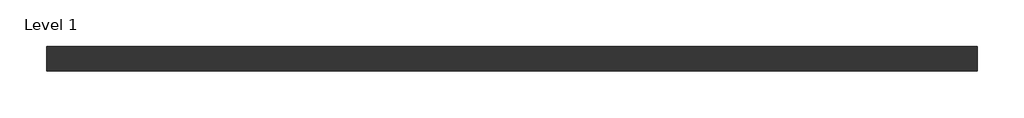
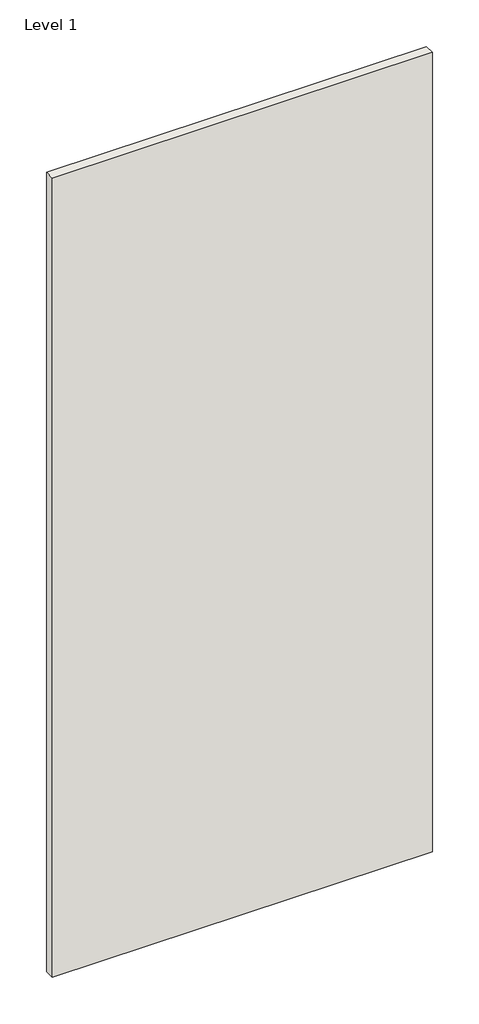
# One storey: 1 wall.
"""IFC4 building model written with IfcOpenShell, lengths in millimetres."""

import ifcopenshell
import ifcopenshell.guid

model = None  # the IFC model being written
_history = None  # IfcOwnerHistory: only IFC2X3 demands one
_inside = {}  # id of a spatial element -> (the spatial element, [elements in it])
_under = {}  # id of a project, library or spatial element -> (it, [spatial elements below it])
_declared = {}  # id of a project -> (the project, [libraries it declares])
_typed = {}  # id of a type object -> (the type object, [elements of that type])
_made_of = {}  # id of a material, layer set ... -> (it, [elements and type objects made of it])


def new_model(schema):
    """Start an empty IFC model of exactly this schema.

    Asked for "IFC4X3", IfcOpenShell would pick the latest addendum, in which some entities
    have other attributes; the version numbers below select the first issue.
    IFC2X3 requires an IfcOwnerHistory on every rooted entity: one is made here for all.
    """
    global model, _history
    if schema == "IFC4X3":
        model = ifcopenshell.file(schema_version=(4, 3, 0, 0))
    else:
        model = ifcopenshell.file(schema=schema)
    _inside.clear()
    _under.clear()
    _declared.clear()
    _typed.clear()
    _made_of.clear()
    _history = None
    if model.schema == "IFC2X3":
        org = make("IfcOrganization", Name="unknown")
        user = make(
            "IfcPersonAndOrganization",
            ThePerson=make("IfcPerson", FamilyName="unknown"),
            TheOrganization=org,
        )
        app = make(
            "IfcApplication",
            ApplicationDeveloper=org,
            Version="unknown",
            ApplicationFullName="unknown",
            ApplicationIdentifier="unknown",
        )
        _history = make(
            "IfcOwnerHistory",
            OwningUser=user,
            OwningApplication=app,
            ChangeAction="ADDED",
            CreationDate=0,
        )
    return model


def make(cls, **values):
    """One entity of the class cls with the attributes given. An attribute that is None is left unset."""
    return model.create_entity(
        cls, **{name: value for name, value in values.items() if value is not None}
    )


def rooted(cls, **values):
    """An entity with a GlobalId (a new one), such as an element, a storey or a relation."""
    return make(cls, GlobalId=ifcopenshell.guid.new(), OwnerHistory=_history, **values)


def si_unit(unit_type, name, prefix=None):
    """IfcSIUnit, for example si_unit("LENGTHUNIT", "METRE", prefix="MILLI")."""
    return make("IfcSIUnit", UnitType=unit_type, Prefix=prefix, Name=name)


def assignment(units):
    """IfcUnitAssignment: the units of a project."""
    return None if units is None else make("IfcUnitAssignment", Units=units)


def point(xyz):
    """IfcCartesianPoint."""
    return None if xyz is None else make("IfcCartesianPoint", Coordinates=xyz)


def direction(xyz):
    """IfcDirection."""
    return None if xyz is None else make("IfcDirection", DirectionRatios=xyz)


def frame(location, z_axis=None, x_axis=None):
    """IfcAxis2Placement3D, a coordinate frame: its origin and axes. An axis left out is left unset."""
    return make(
        "IfcAxis2Placement3D",
        Location=point(location),
        Axis=direction(z_axis),
        RefDirection=direction(x_axis),
    )


def origin():
    """The frame at (0, 0, 0) with its axes left unset."""
    return frame((0.0, 0.0, 0.0))


def origin_with_axes():
    """The frame at (0, 0, 0) with the z axis (0, 0, 1) and the x axis (1, 0, 0) written out."""
    return frame((0.0, 0.0, 0.0), z_axis=(0.0, 0.0, 1.0), x_axis=(1.0, 0.0, 0.0))


def place(relative_to, where):
    """IfcLocalPlacement: puts the frame where relative to a parent placement (None: the world)."""
    return make(
        "IfcLocalPlacement", PlacementRelTo=relative_to, RelativePlacement=where
    )


def context(
    kind, dimensions, precision=None, world=None, true_north=None, identifier=None
):
    """IfcGeometricRepresentationContext, for example the 3D "Model" context."""
    return make(
        "IfcGeometricRepresentationContext",
        ContextIdentifier=identifier,
        ContextType=kind,
        CoordinateSpaceDimension=dimensions,
        Precision=precision,
        WorldCoordinateSystem=world,
        TrueNorth=true_north,
    )


def project(units=None, contexts=None):
    """IfcProject with its units and contexts."""
    return rooted(
        "IfcProject",
        Name="project",
        RepresentationContexts=contexts,
        UnitsInContext=assignment(units),
    )


def spatial(cls, under=None, at=None, **own):
    """A site, building, storey or space (cls), placed at a placement, below another one or the project."""
    s = rooted(cls, ObjectPlacement=at, **own)
    if under is not None:
        _under.setdefault(under.id(), (under, []))[1].append(s)
    return s


def polyline(points):
    """IfcPolyline through the points."""
    return make("IfcPolyline", Points=[point(p) for p in points])


def outline(outer, holes=None, kind="AREA"):
    """IfcArbitraryClosedProfileDef: a profile drawn as a closed curve; with holes, ...WithVoids."""
    if holes is None:
        return make("IfcArbitraryClosedProfileDef", ProfileType=kind, OuterCurve=outer)
    return make(
        "IfcArbitraryProfileDefWithVoids",
        ProfileType=kind,
        OuterCurve=outer,
        InnerCurves=holes,
    )


def extrude(swept, where, along, depth):
    """IfcExtrudedAreaSolid: the profile swept, set in the frame where, extruded along a direction by depth."""
    return make(
        "IfcExtrudedAreaSolid",
        SweptArea=swept,
        Position=where,
        ExtrudedDirection=direction(along),
        Depth=depth,
    )


def shape(context_of_items, identifier, shape_type, items):
    """IfcShapeRepresentation: the items that make up one representation, for example the "Body"."""
    return make(
        "IfcShapeRepresentation",
        ContextOfItems=context_of_items,
        RepresentationIdentifier=identifier,
        RepresentationType=shape_type,
        Items=items,
    )


def made_of(thing, what):
    """Note that an element or type object is made of a material, layer set ...; save() writes the relation."""
    if what is not None:
        _made_of.setdefault(what.id(), (what, []))[1].append(thing)
    return thing


def element(
    cls,
    number,
    at=None,
    inside=None,
    cuts=None,
    type_object=None,
    material=None,
    context=None,
    identifier="Body",
    shape_type=None,
    held_by="IfcProductDefinitionShape",
    body=None,
    shapes=None,
    **own,
):
    """One element of the class cls, such as IfcWall. Its Tag is "e" and its number.

    at: its placement. inside: the storey or other place that contains it. cuts: it is an
    opening in that element (IfcRelVoidsElement). A single representation is given by context,
    identifier, shape_type and body (its items); several are given by shapes. held_by: the class
    of the entity that holds the representations. save() writes the other relations.
    """
    e = rooted(cls, Tag="e%d" % number, ObjectPlacement=at, **own)
    if body is not None:
        shapes = [shape(context, identifier, shape_type, body)]
    if shapes is not None:
        e.Representation = make(held_by, Representations=shapes)
    if inside is not None:
        _inside.setdefault(inside.id(), (inside, []))[1].append(e)
    if cuts is not None:
        rooted(
            "IfcRelVoidsElement", RelatingBuildingElement=cuts, RelatedOpeningElement=e
        )
    if type_object is not None:
        _typed.setdefault(type_object.id(), (type_object, []))[1].append(e)
    return made_of(e, material)


def aggregate(whole, parts):
    """IfcRelAggregates: a whole, such as a stair, and the parts it consists of."""
    return rooted("IfcRelAggregates", RelatingObject=whole, RelatedObjects=parts)


def save(model, path):
    """Write the relations noted so far, then the file.

    IfcRelAggregates (storeys below a building ...), IfcRelContainedInSpatialStructure (elements
    in a storey), IfcRelDefinesByType, IfcRelAssociatesMaterial and IfcRelDeclares: one each for
    every whole, place, type object, material and project.
    """
    for whole, parts in _under.values():
        aggregate(whole, parts)
    for where, things in _inside.values():
        rooted(
            "IfcRelContainedInSpatialStructure",
            RelatedElements=things,
            RelatingStructure=where,
        )
    for kind, things in _typed.values():
        rooted("IfcRelDefinesByType", RelatedObjects=things, RelatingType=kind)
    for what, things in _made_of.values():
        rooted("IfcRelAssociatesMaterial", RelatedObjects=things, RelatingMaterial=what)
    for by, libraries in _declared.values():
        rooted("IfcRelDeclares", RelatingContext=by, RelatedDefinitions=libraries)
    model.write(path)


model = new_model("IFC4")

# Units and contexts
model_context = context("Model", 3, world=origin())
ifc_project = project(units=[si_unit("LENGTHUNIT", "METRE", prefix="MILLI")], contexts=[model_context])

# Site, building, storey
site = spatial("IfcSite", under=ifc_project)
building = spatial("IfcBuilding", under=site)
storey = spatial("IfcBuildingStorey", under=building, Name="Level 1", Elevation=0.0)

# Wall
placement = place(None, origin())
element("IfcWall", 1, ObjectType="Interior-Steel Frame-Laminated Services-CSR7715-48mm", at=placement, inside=storey, context=model_context, shape_type="SweptSolid", body=[
    extrude(outline(polyline([(-363.5662659, -2252.175699), (1436.4337341, -2252.175699), (1436.4337341, -2300.175699), (-363.5662659, -2300.175699), (-363.5662659, -2252.175699)])), origin_with_axes(), (0.0, 0.0, 1.0), 4000.0),
])

save(model, "model.ifc")
